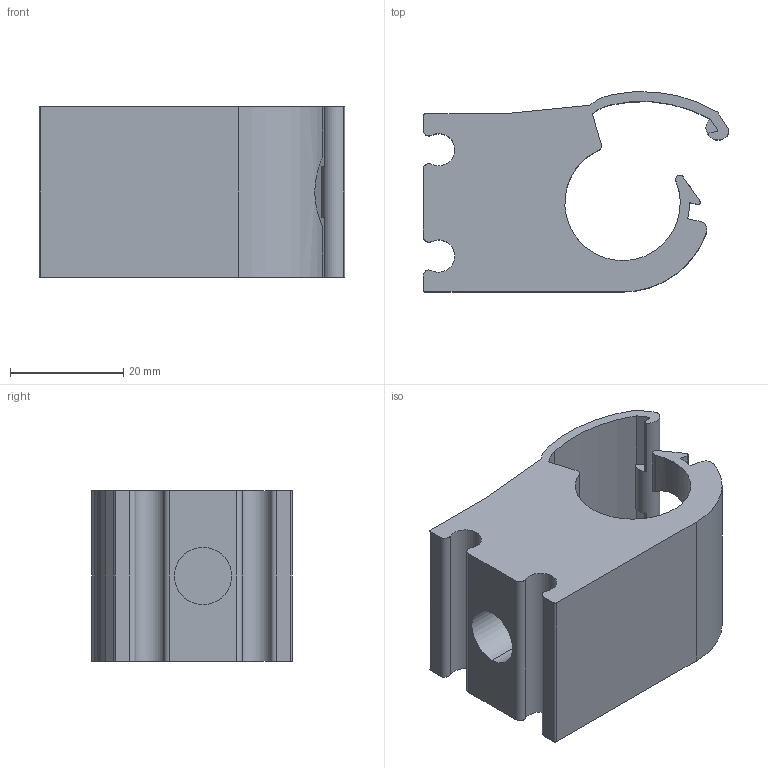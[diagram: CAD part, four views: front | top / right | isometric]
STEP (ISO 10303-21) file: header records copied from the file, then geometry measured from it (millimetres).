
FILE_DESCRIPTION((''),'2;1');
FILE_NAME('AU15102200','2017-05-12T',('Administrator'),(''),'PRO/ENGINEER BY PARAMETRIC TECHNOLOGY CORPORATION, 2009360','PRO/ENGINEER BY PARAMETRIC TECHNOLOGY CORPORATION, 2009360','');
FILE_SCHEMA(('AUTOMOTIVE_DESIGN_CC2 { 1 2 10303 214 -1 1 5 2 }'));
Length unit declared in the file: millimetre
Products named in the file (1): AU15102200
Bounding box: 53.99 x 35.35 x 30.04 mm (x, y, z)
Volume: 29536.3 mm3; surface area: 10116.5 mm2
Topology: 1 solids, 1 shells, 63 faces, 194 edges, 136 vertices
Faces by surface type: cylinder 37, plane 26
Entity records: 3049 total; most frequent: CARTESIAN_POINT 697, ORIENTED_EDGE 388, DIRECTION 344, PRESENTATION_STYLE_ASSIGNMENT 195, STYLED_ITEM 195, CURVE_STYLE 194, EDGE_CURVE 194, VERTEX_POINT 136
